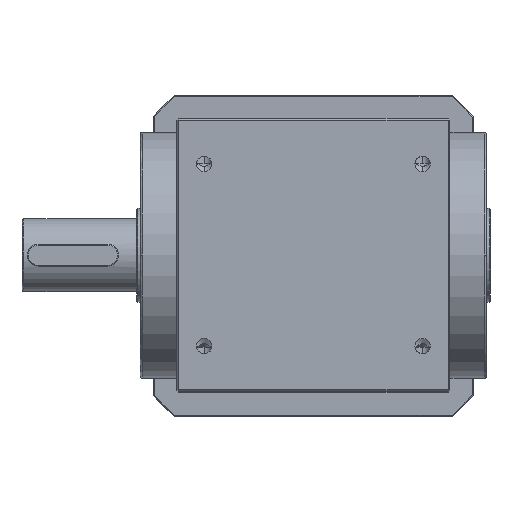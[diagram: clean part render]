
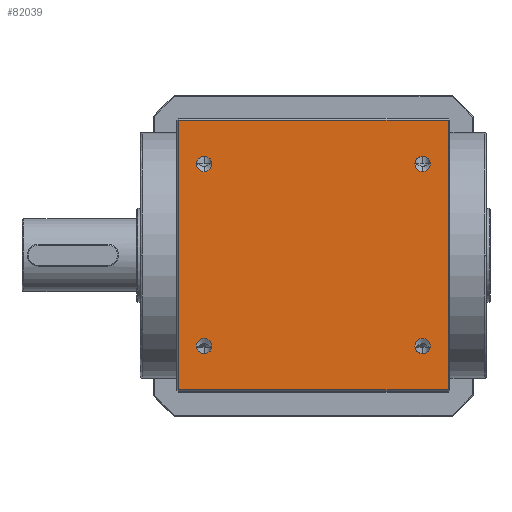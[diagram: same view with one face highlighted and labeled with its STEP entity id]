
A CAD part, top view. The second image highlights one B-rep face of the part: STEP entity #82039.
In plain terms, the highlighted planar face has unit normal (0, 0, 1) as drawn and (0, 1, 0) by its records, which use the part's own axes.
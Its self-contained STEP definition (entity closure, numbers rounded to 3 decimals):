
#132 = DIRECTION ( 'NONE',  ( 0., -1., 0. ) ) ;
#415 = CARTESIAN_POINT ( 'NONE',  ( -75., 75., 75. ) ) ;
#2947 = EDGE_LOOP ( 'NONE', ( #72216, #26110 ) ) ;
#3884 = CIRCLE ( 'NONE', #59052, 4.25 ) ;
#5569 = AXIS2_PLACEMENT_3D ( 'NONE', #94017, #93792, #93699 ) ;
#8181 = ORIENTED_EDGE ( 'NONE', *, *, #64618, .F. ) ;
#8368 = DIRECTION ( 'NONE',  ( 0., 0., -1. ) ) ;
#9285 = VERTEX_POINT ( 'NONE', #56848 ) ;
#9988 = ORIENTED_EDGE ( 'NONE', *, *, #93593, .T. ) ;
#10085 = DIRECTION ( 'NONE',  ( 1., 0., 0. ) ) ;
#10583 = CARTESIAN_POINT ( 'NONE',  ( 60., 75., -50. ) ) ;
#10640 = VERTEX_POINT ( 'NONE', #80930 ) ;
#13602 = CARTESIAN_POINT ( 'NONE',  ( -60., 75., -45.75 ) ) ;
#14532 = DIRECTION ( 'NONE',  ( 0., 0., 1. ) ) ;
#17214 = VECTOR ( 'NONE', #42403, 1000. ) ;
#18629 = DIRECTION ( 'NONE',  ( 0., 0., 1. ) ) ;
#19917 = DIRECTION ( 'NONE',  ( 0., 0., 1. ) ) ;
#20137 = DIRECTION ( 'NONE',  ( 0., 1., 0. ) ) ;
#20249 = CARTESIAN_POINT ( 'NONE',  ( 60., 75., -50. ) ) ;
#21053 = VERTEX_POINT ( 'NONE', #39421 ) ;
#22058 = AXIS2_PLACEMENT_3D ( 'NONE', #10583, #66427, #18629 ) ;
#24493 = CARTESIAN_POINT ( 'NONE',  ( 74., 75., -74. ) ) ;
#24748 = FACE_OUTER_BOUND ( 'NONE', #78771, .T. ) ;
#25175 = DIRECTION ( 'NONE',  ( 0., 0., 1. ) ) ;
#25298 = DIRECTION ( 'NONE',  ( 0., 1., 0. ) ) ;
#25430 = CARTESIAN_POINT ( 'NONE',  ( -60., 75., -50. ) ) ;
#25615 = VECTOR ( 'NONE', #10085, 1000. ) ;
#26110 = ORIENTED_EDGE ( 'NONE', *, *, #26297, .T. ) ;
#26297 = EDGE_CURVE ( 'NONE', #90653, #98625, #78414, .T. ) ;
#27374 = DIRECTION ( 'NONE',  ( 0., 0., 1. ) ) ;
#27754 = EDGE_CURVE ( 'NONE', #76334, #21053, #43574, .T. ) ;
#28365 = EDGE_CURVE ( 'NONE', #9285, #101056, #43450, .T. ) ;
#28862 = EDGE_CURVE ( 'NONE', #85885, #28982, #75623, .T. ) ;
#28982 = VERTEX_POINT ( 'NONE', #77917 ) ;
#29335 = LINE ( 'NONE', #85285, #59551 ) ;
#30114 = CARTESIAN_POINT ( 'NONE',  ( -60., 75., 54.25 ) ) ;
#31615 = FACE_BOUND ( 'NONE', #59125, .T. ) ;
#31803 = VERTEX_POINT ( 'NONE', #24493 ) ;
#33625 = AXIS2_PLACEMENT_3D ( 'NONE', #20249, #20137, #19917 ) ;
#37899 = DIRECTION ( 'NONE',  ( 0., 0., -1. ) ) ;
#39086 = DIRECTION ( 'NONE',  ( 0., 0., 1. ) ) ;
#39174 = DIRECTION ( 'NONE',  ( 0., -1., 0. ) ) ;
#39203 = CARTESIAN_POINT ( 'NONE',  ( 60., 75., 50. ) ) ;
#39348 = DIRECTION ( 'NONE',  ( 0., 1., 0. ) ) ;
#39421 = CARTESIAN_POINT ( 'NONE',  ( -60., 75., -54.25 ) ) ;
#39702 = ORIENTED_EDGE ( 'NONE', *, *, #57551, .F. ) ;
#41907 = EDGE_CURVE ( 'NONE', #21053, #76334, #49170, .T. ) ;
#42403 = DIRECTION ( 'NONE',  ( 1., 0., 0. ) ) ;
#43450 = CIRCLE ( 'NONE', #33625, 4.25 ) ;
#43574 = CIRCLE ( 'NONE', #60716, 4.25 ) ;
#45039 = CARTESIAN_POINT ( 'NONE',  ( 60., 75., -54.25 ) ) ;
#47074 = LINE ( 'NONE', #67044, #54861 ) ;
#47956 = PLANE ( 'NONE',  #78681 ) ;
#48032 = CARTESIAN_POINT ( 'NONE',  ( -60., 75., 50. ) ) ;
#49170 = CIRCLE ( 'NONE', #82860, 4.25 ) ;
#49304 = ORIENTED_EDGE ( 'NONE', *, *, #27754, .F. ) ;
#52248 = EDGE_CURVE ( 'NONE', #98625, #90653, #3884, .T. ) ;
#52919 = AXIS2_PLACEMENT_3D ( 'NONE', #86152, #86080, #85946 ) ;
#53014 = ORIENTED_EDGE ( 'NONE', *, *, #28862, .T. ) ;
#54446 = LINE ( 'NONE', #89689, #17214 ) ;
#54861 = VECTOR ( 'NONE', #27374, 1000. ) ;
#55162 = FACE_BOUND ( 'NONE', #76224, .T. ) ;
#56022 = DIRECTION ( 'NONE',  ( 0., 0., 1. ) ) ;
#56173 = CARTESIAN_POINT ( 'NONE',  ( -74., 75., 74. ) ) ;
#56307 = DIRECTION ( 'NONE',  ( 0., -1., 0. ) ) ;
#56848 = CARTESIAN_POINT ( 'NONE',  ( 60., 75., -45.75 ) ) ;
#57551 = EDGE_CURVE ( 'NONE', #68800, #10640, #29335, .T. ) ;
#59052 = AXIS2_PLACEMENT_3D ( 'NONE', #39203, #39174, #39086 ) ;
#59125 = EDGE_LOOP ( 'NONE', ( #49304, #62553 ) ) ;
#59551 = VECTOR ( 'NONE', #37899, 1000. ) ;
#59675 = VERTEX_POINT ( 'NONE', #76549 ) ;
#60386 = FACE_BOUND ( 'NONE', #72621, .T. ) ;
#60716 = AXIS2_PLACEMENT_3D ( 'NONE', #83496, #39348, #14532 ) ;
#62553 = ORIENTED_EDGE ( 'NONE', *, *, #41907, .F. ) ;
#64618 = EDGE_CURVE ( 'NONE', #10640, #31803, #54446, .T. ) ;
#65952 = CARTESIAN_POINT ( 'NONE',  ( 0., 75., 74. ) ) ;
#66041 = FACE_BOUND ( 'NONE', #2947, .T. ) ;
#66427 = DIRECTION ( 'NONE',  ( 0., 1., 0. ) ) ;
#67044 = CARTESIAN_POINT ( 'NONE',  ( 74., 75., 75. ) ) ;
#68800 = VERTEX_POINT ( 'NONE', #56173 ) ;
#70759 = ORIENTED_EDGE ( 'NONE', *, *, #28365, .F. ) ;
#71234 = ORIENTED_EDGE ( 'NONE', *, *, #90082, .F. ) ;
#72216 = ORIENTED_EDGE ( 'NONE', *, *, #52248, .T. ) ;
#72621 = EDGE_LOOP ( 'NONE', ( #70759, #71234 ) ) ;
#74870 = ORIENTED_EDGE ( 'NONE', *, *, #84041, .F. ) ;
#75623 = CIRCLE ( 'NONE', #52919, 4.25 ) ;
#76224 = EDGE_LOOP ( 'NONE', ( #53014, #9988 ) ) ;
#76334 = VERTEX_POINT ( 'NONE', #13602 ) ;
#76549 = CARTESIAN_POINT ( 'NONE',  ( 74., 75., 74. ) ) ;
#77917 = CARTESIAN_POINT ( 'NONE',  ( -60., 75., 45.75 ) ) ;
#78414 = CIRCLE ( 'NONE', #5569, 4.25 ) ;
#78681 = AXIS2_PLACEMENT_3D ( 'NONE', #415, #56307, #8368 ) ;
#78771 = EDGE_LOOP ( 'NONE', ( #82969, #74870, #8181, #39702 ) ) ;
#80930 = CARTESIAN_POINT ( 'NONE',  ( -74., 75., -74. ) ) ;
#81708 = AXIS2_PLACEMENT_3D ( 'NONE', #48032, #132, #56022 ) ;
#82039 = ADVANCED_FACE ( 'NONE', ( #66041, #55162, #60386, #31615, #24748 ), #47956, .F. ) ;
#82860 = AXIS2_PLACEMENT_3D ( 'NONE', #25430, #25298, #25175 ) ;
#82969 = ORIENTED_EDGE ( 'NONE', *, *, #95028, .T. ) ;
#83496 = CARTESIAN_POINT ( 'NONE',  ( -60., 75., -50. ) ) ;
#84041 = EDGE_CURVE ( 'NONE', #31803, #59675, #47074, .T. ) ;
#85285 = CARTESIAN_POINT ( 'NONE',  ( -74., 75., 75. ) ) ;
#85885 = VERTEX_POINT ( 'NONE', #30114 ) ;
#85946 = DIRECTION ( 'NONE',  ( 0., 0., 1. ) ) ;
#86080 = DIRECTION ( 'NONE',  ( 0., -1., 0. ) ) ;
#86152 = CARTESIAN_POINT ( 'NONE',  ( -60., 75., 50. ) ) ;
#87596 = CARTESIAN_POINT ( 'NONE',  ( 60., 75., 54.25 ) ) ;
#89689 = CARTESIAN_POINT ( 'NONE',  ( -75., 75., -74. ) ) ;
#90082 = EDGE_CURVE ( 'NONE', #101056, #9285, #97806, .T. ) ;
#90653 = VERTEX_POINT ( 'NONE', #100907 ) ;
#91331 = LINE ( 'NONE', #65952, #25615 ) ;
#93593 = EDGE_CURVE ( 'NONE', #28982, #85885, #96476, .T. ) ;
#93699 = DIRECTION ( 'NONE',  ( 0., 0., 1. ) ) ;
#93792 = DIRECTION ( 'NONE',  ( 0., -1., 0. ) ) ;
#94017 = CARTESIAN_POINT ( 'NONE',  ( 60., 75., 50. ) ) ;
#95028 = EDGE_CURVE ( 'NONE', #68800, #59675, #91331, .T. ) ;
#96476 = CIRCLE ( 'NONE', #81708, 4.25 ) ;
#97806 = CIRCLE ( 'NONE', #22058, 4.25 ) ;
#98625 = VERTEX_POINT ( 'NONE', #87596 ) ;
#100907 = CARTESIAN_POINT ( 'NONE',  ( 60., 75., 45.75 ) ) ;
#101056 = VERTEX_POINT ( 'NONE', #45039 ) ;
